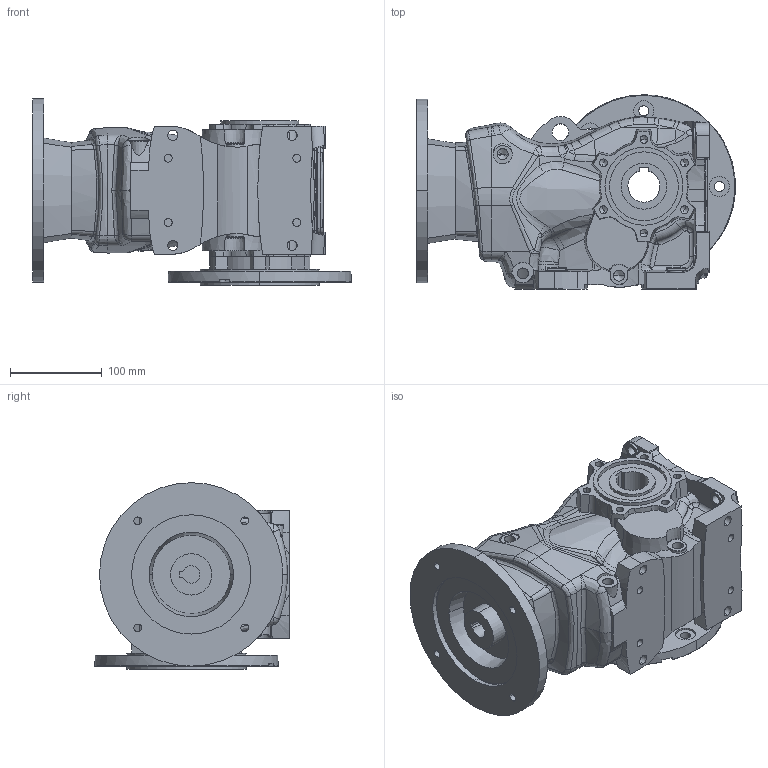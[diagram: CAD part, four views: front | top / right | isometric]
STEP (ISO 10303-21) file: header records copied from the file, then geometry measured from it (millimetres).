
FILE_DESCRIPTION((''),'2;1');
FILE_NAME('ENDURO4_ASM','2015-06-07T',('Luca'),(''),'PRO/ENGINEER BY PARAMETRIC TECHNOLOGY CORPORATION, 2008230','PRO/ENGINEER BY PARAMETRIC TECHNOLOGY CORPORATION, 2008230','');
FILE_SCHEMA(('CONFIG_CONTROL_DESIGN'));
Length unit declared in the file: millimetre
Products named in the file (4): HOUEN4; OFL200ES4_2; IFL80EN4; ENDURO4_ASM
Assembly tree (3 placements, depth 2):
  ENDURO4_ASM
    HOUEN4
    OFL200ES4_2
    IFL80EN4
Bounding box: 347.32 x 212 x 203.49 mm (x, y, z)
Volume: 5646900.1 mm3; surface area: 494238.8 mm2
Topology: 4 solids, 4 shells, 1229 faces, 3431 edges, 2239 vertices
Faces by surface type: cylinder 429, plane 346, cone 200, bspline 196, torus 50, sphere 4, extrusion 4
Entity records: 47944 total; most frequent: CARTESIAN_POINT 18737, ORIENTED_EDGE 6796, DIRECTION 5161, EDGE_CURVE 3398, VERTEX_POINT 2239, AXIS2_PLACEMENT_3D 2059, EDGE_LOOP 1363, B_SPLINE_CURVE_WITH_KNOTS 1340
